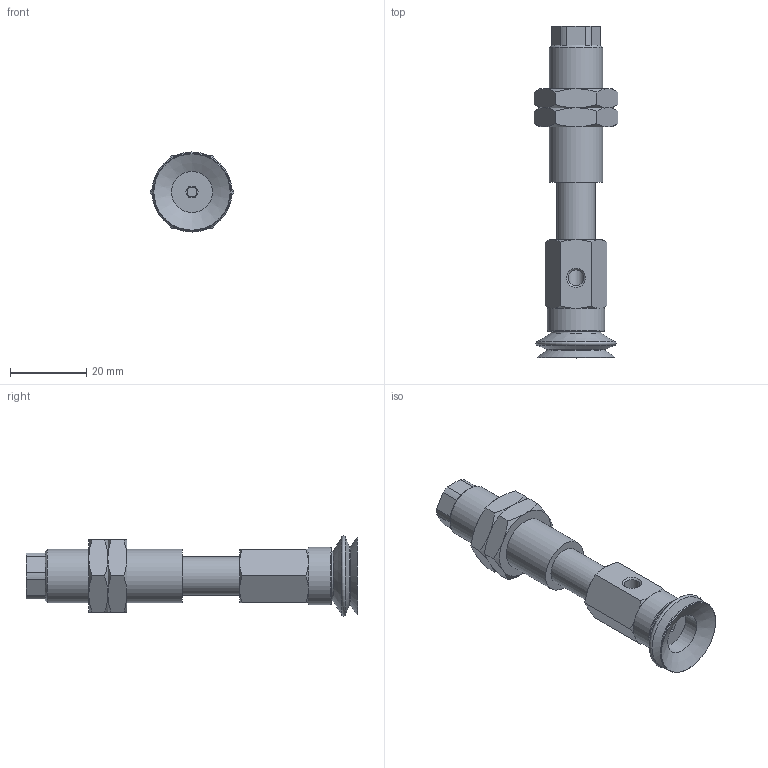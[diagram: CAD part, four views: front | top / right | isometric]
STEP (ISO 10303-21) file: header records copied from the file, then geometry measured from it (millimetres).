
FILE_DESCRIPTION(('STEP AP203'),'1');
FILE_NAME('.stp','2025-04-24T01:26:34',(' '),(' '),'Spatial InterOp 3D',' ',' ');
FILE_SCHEMA(('CONFIG_CONTROL_DESIGN'));
Length unit declared in the file: millimetre
Products named in the file (7): BNABPJYS-20-15-※; Adapter-20-NAPJ; CONNECTOR_S-20-15; NUT-NAPJ-20-15-s; NAPJTS-20-15-FBODY; NAPJTS-20-15-MBODY; BPJG-20-※
Assembly tree (7 placements, depth 2):
  BNABPJYS-20-15-※
    Adapter-20-NAPJ
    CONNECTOR_S-20-15
    NUT-NAPJ-20-15-s  x2
    NAPJTS-20-15-FBODY
    NAPJTS-20-15-MBODY
    BPJG-20-※
Bounding box: 21.94 x 87 x 21 mm (x, y, z)
Volume: 13437.3 mm3; surface area: 10734.3 mm2
Topology: 7 solids, 7 shells, 143 faces, 310 edges, 189 vertices
Faces by surface type: plane 60, cone 54, cylinder 22, torus 7
Full cylindrical faces by diameter (mm): 2.5 x1, 3 x1, 4.134 x3, 4.6 x1, 5 x2, 10 x2, 10.8 x1, 11 x1, 13.188 x2, 14 x1, 15 x1
Entity records: 3646 total; most frequent: CARTESIAN_POINT 866, DIRECTION 514, ORIENTED_EDGE 436, AXIS2_PLACEMENT_3D 220, EDGE_CURVE 218, EDGE_LOOP 176, VERTEX_POINT 154, FACE_OUTER_BOUND 142
